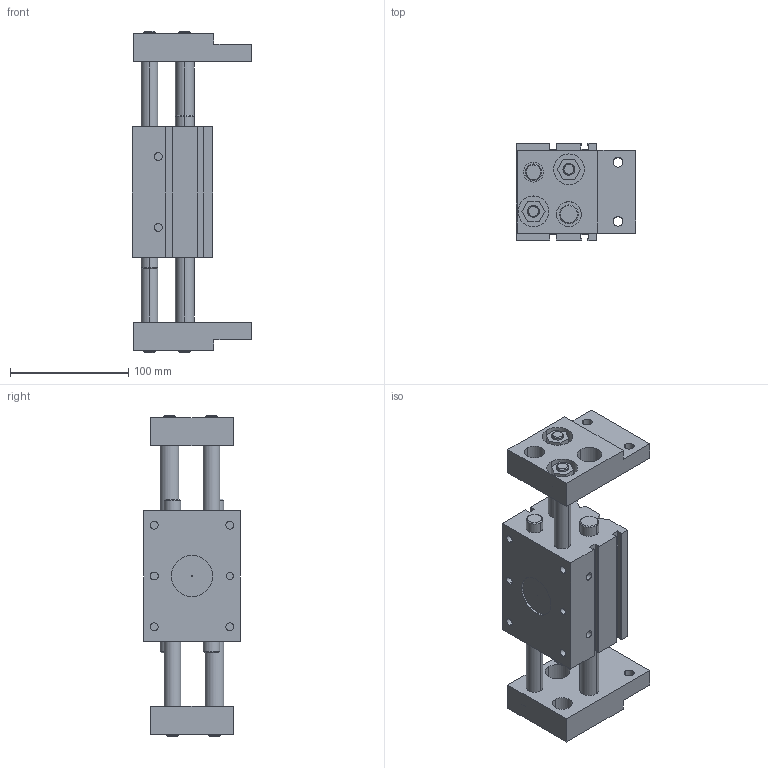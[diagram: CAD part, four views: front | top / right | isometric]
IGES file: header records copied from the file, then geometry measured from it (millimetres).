
Global section: file name: No Iges File Name specified; native system: Autodesk Inventor 2011; preprocessor: AutoDesk Inventor Iges Exporter R2011; author: airolcr1; date: 20110614.103504; units: millimetre
Bounding box: 101 x 82 x 272 mm (x, y, z)
Volume: 885519.9 mm3; surface area: 159742.6 mm2
Topology: 3 solids, 3 shells, 203 faces, 494 edges, 322 vertices
Faces by surface type: plane 101, bspline 56, cylinder 16, cone 16, revolution 14
